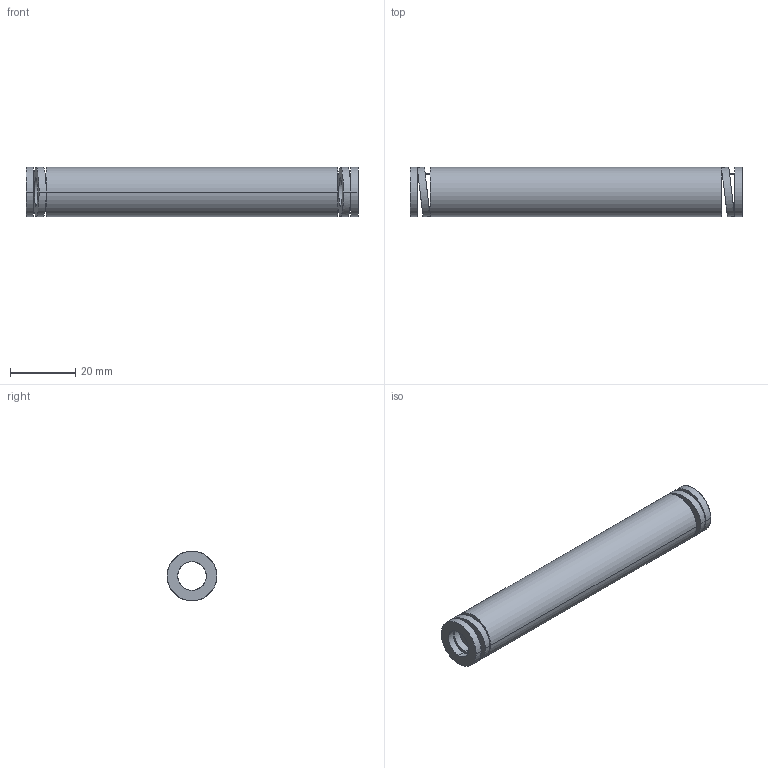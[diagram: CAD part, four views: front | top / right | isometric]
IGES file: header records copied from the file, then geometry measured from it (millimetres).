
Start section: START RECORD GO HERE.
Global section: file name: 392-B16-102.igs; native system: DASSAULT SYSTEMES CATIA V5 R20 - www.3ds.com; preprocessor: CATIA Version 5 Release 20 ; author: Utente; organization: NB04-ASUS; date: 20210812.160344; units: millimetre
Bounding box: 102 x 15.35 x 15.2 mm (x, y, z)
Surface area: 8616.7 mm2 (no closed solid volume)
Topology: 0 solids, 0 shells, 38 faces, 184 edges, 184 vertices
Faces by surface type: revolution 28, plane 10
